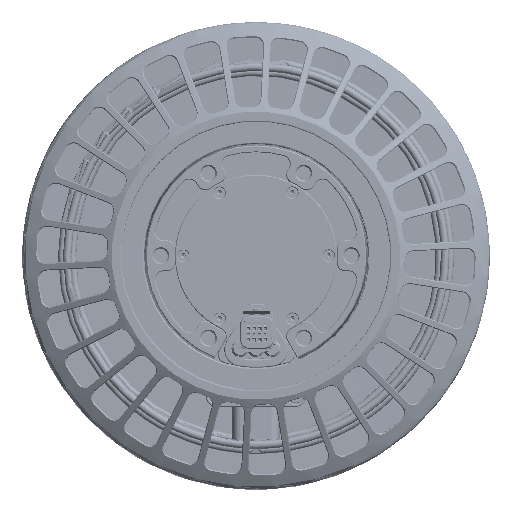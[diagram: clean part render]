
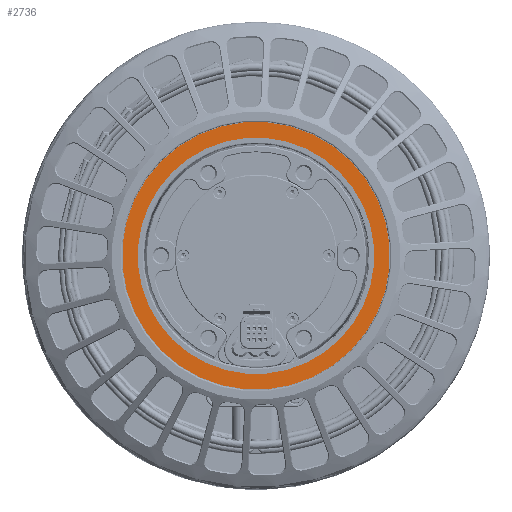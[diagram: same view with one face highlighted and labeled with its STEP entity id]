
A CAD part, top view. The second image highlights one B-rep face of the part: STEP entity #2736.
In plain terms, the highlighted planar face has unit normal (0, 0, 1).
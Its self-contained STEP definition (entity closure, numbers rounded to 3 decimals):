
#2736 = ADVANCED_FACE ( 'NONE', ( #312954, #228567 ), #82862, .T. ) ;
#12199 = EDGE_LOOP ( 'NONE', ( #164101 ) ) ;
#17859 = VERTEX_POINT ( 'NONE', #132132 ) ;
#21108 = AXIS2_PLACEMENT_3D ( 'NONE', #289884, #84267, #314315 ) ;
#64876 = VERTEX_POINT ( 'NONE', #68500 ) ;
#68500 = CARTESIAN_POINT ( 'NONE',  ( -43.348, -20.262, 63.885 ) ) ;
#82862 = PLANE ( 'NONE',  #289291 ) ;
#84267 = DIRECTION ( 'NONE',  ( 0., 0., 1. ) ) ;
#95300 = CARTESIAN_POINT ( 'NONE',  ( 0., 0., 63.885 ) ) ;
#119173 = EDGE_CURVE ( 'NONE', #64876, #64876, #134706, .T. ) ;
#129876 = EDGE_CURVE ( 'NONE', #17859, #17859, #326799, .T. ) ;
#132132 = CARTESIAN_POINT ( 'NONE',  ( 38.275, 17.891, 63.885 ) ) ;
#134706 = CIRCLE ( 'NONE', #21108, 47.85 ) ;
#164101 = ORIENTED_EDGE ( 'NONE', *, *, #129876, .F. ) ;
#177232 = EDGE_LOOP ( 'NONE', ( #367485 ) ) ;
#203710 = DIRECTION ( 'NONE',  ( 0., 0., 1. ) ) ;
#213149 = AXIS2_PLACEMENT_3D ( 'NONE', #95300, #203710, #319848 ) ;
#228567 = FACE_BOUND ( 'NONE', #12199, .T. ) ;
#230431 = CARTESIAN_POINT ( 'NONE',  ( -22.861, -64.091, 63.885 ) ) ;
#284847 = DIRECTION ( 'NONE',  ( 0.906, 0.423, 0. ) ) ;
#289291 = AXIS2_PLACEMENT_3D ( 'NONE', #230431, #316629, #284847 ) ;
#289884 = CARTESIAN_POINT ( 'NONE',  ( 0., 0., 63.885 ) ) ;
#312954 = FACE_OUTER_BOUND ( 'NONE', #177232, .T. ) ;
#314315 = DIRECTION ( 'NONE',  ( -0.906, -0.423, 0. ) ) ;
#316629 = DIRECTION ( 'NONE',  ( 0., 0., 1. ) ) ;
#319848 = DIRECTION ( 'NONE',  ( 0.906, 0.423, 0. ) ) ;
#326799 = CIRCLE ( 'NONE', #213149, 42.25 ) ;
#367485 = ORIENTED_EDGE ( 'NONE', *, *, #119173, .T. ) ;
